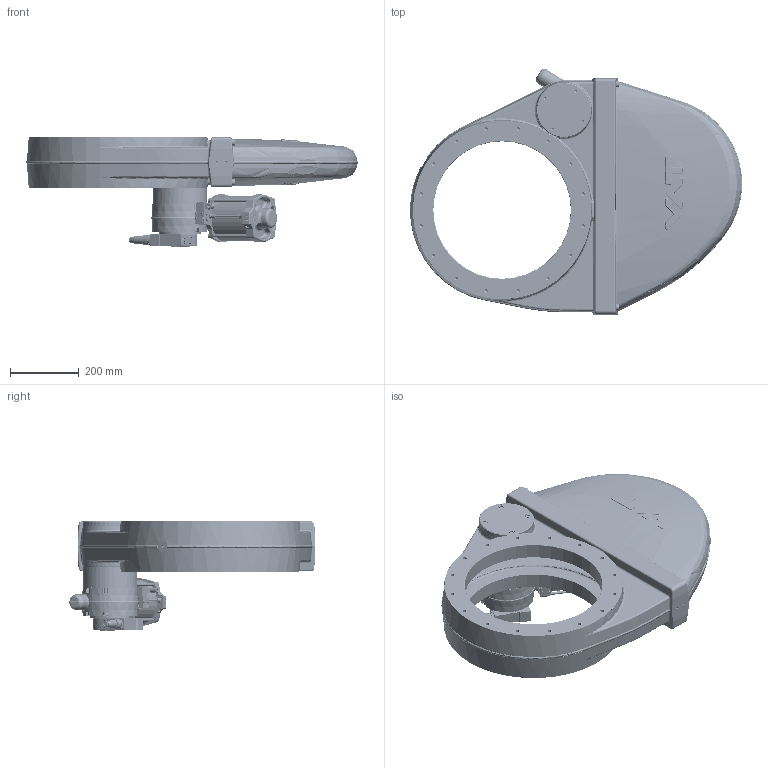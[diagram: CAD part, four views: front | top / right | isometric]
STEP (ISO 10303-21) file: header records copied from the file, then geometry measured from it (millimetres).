
FILE_DESCRIPTION(/* description */ (''),/* implementation_level */ '2;1');
FILE_NAME(/* name */ '1906044760_203.stp',/* time_stamp */ '2013-01-04T10:39:03+01:00',/* author */ (''),/* organization */ (''),/* preprocessor_version */ 'ST-DEVELOPER v11',/* originating_system */ 'SIEMENS PLM Software NX 7.5',/* authorisation */ '');
FILE_SCHEMA (('AP203_CONFIGURATION_CONTROLLED_3D_DESIGN_OF_MECHANICAL_PARTS_AND_ASSEMBLIES_MIM_LF'));
Products named in the file (42): 467882; 437235; n-8504-002; 60539-01.1; 60538-01.1; 60537-01.2; 60538-01_2.1; 255170.1; 60532-01_1.2; N-6029-102.1; N-8504-102.3; N-8406-108.2; N-6016-123.1; N-6027-015.3; N-6029-112.1; N-6176-005.2; N-6289-133.2; N-7557-016_1.1; N-7557-018.1; N-7557-016_2.1; N-6024-524.1; N-5018-005.1; 322126.2; 393324; 393398; 224870.2; 218207.2; N-7607-350_1.1; N-6134-411.1; 224848.2; N-6005-514.1; 234119.3; 236583.3; 236570.12; 237644.3; 342994.2; 200438_8.1; 239902.4; 60546-R1.9_NX-ARRAGMNTB_CLOSE; N-7557-016_3.1_MODELNX-ARRAGMNTArrangement 1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
Assembly tree (80 placements, depth 4):
  571704
    239902.4
    200438_8.1
    342994.2
    237644.3  x2
    236570.12
    236583.3
    234119.3
    N-6005-514.1  x4
    224848.2  x4
    N-6134-411.1  x4
    N-7607-350_1.1  x2
    94800-R1.7_NX-ARRAGMNTKONFIG1
      N-5018-005.1  x2
      N-6024-524.1  x6
      N-7557-016_2.1
      N-7557-018.1
      N-7557-016_1.1
      N-7557-016_3.1_MODELNX-ARRAGMNTArrangement 1
        437235
        467882
    218207.2  x4
    60546-R1.9_NX-ARRAGMNTB_CLOSE
      N-6289-133.2
      N-6176-005.2  x4
      N-6029-112.1  x2
      N-6027-015.3  x4
      N-6016-123.1  x4
      N-8406-108.2  x2
      N-8504-102.3
      N-6029-102.1  x2
      60532-01_1.2  x2
      255170.1  x4
      60538-01_2.1
      60537-01.2
      60538-01.1
      60539-01.1
      n-8504-002
    224870.2  x4
    393398
    393324
    322126.2
Bounding box: 966.14 x 715.68 x 322.28 mm (x, y, z)
Volume: 20323696.8 mm3; surface area: 3101422.2 mm2
Topology: 121 solids, 123 shells, 4820 faces, 11501 edges, 7189 vertices
Faces by surface type: plane 2021, cylinder 1401, bspline 1014, cone 312, sphere 51, torus 13, extrusion 8
Full cylindrical faces by diameter (mm): 1.5 x7, 1.8 x7, 2 x25, 2.2 x6, 2.25 x20, 2.45 x20, 2.5 x6, 2.55 x4, 2.6 x4, 2.657 x1, 2.8 x1, 2.9 x6, 3 x25, 3.025 x8, 3.07 x12, 3.1 x2, 3.2 x6, 3.251 x1, 3.26 x4, 3.28 x8, 3.3 x8, 3.4 x4, 3.5 x3, 3.6 x2, 4 x15, 4.2 x26, 4.22 x1, 4.5 x4, 4.55 x8, 5 x14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
Entity records: 161006 total; most frequent: CARTESIAN_POINT 73239, ORIENTED_EDGE 16624, DIRECTION 15260, EDGE_CURVE 8312, AXIS2_PLACEMENT_3D 5938, VERTEX_POINT 5665, EDGE_LOOP 4998, ADVANCED_FACE 3824
